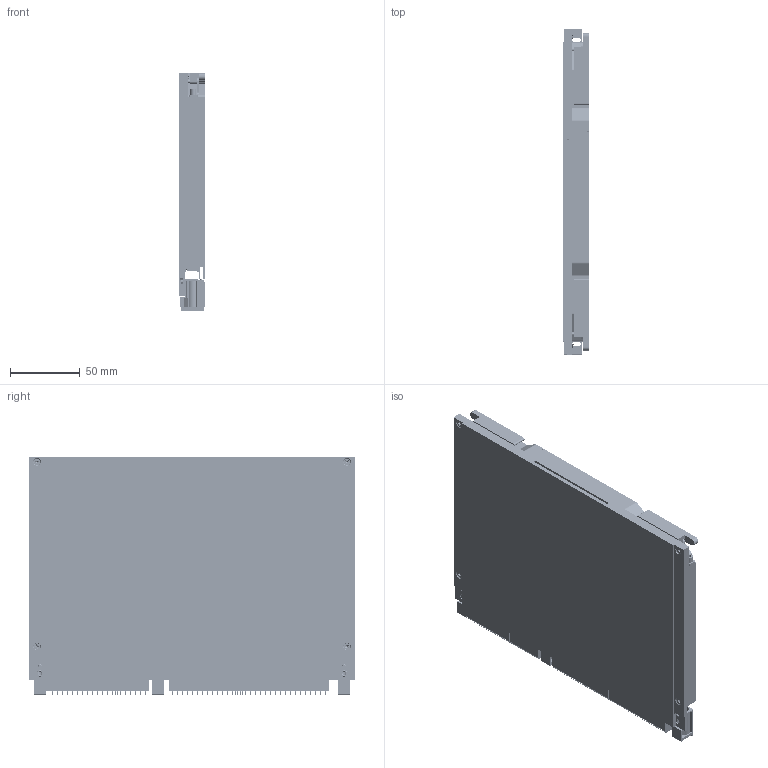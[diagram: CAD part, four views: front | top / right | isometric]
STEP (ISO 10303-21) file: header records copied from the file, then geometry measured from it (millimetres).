
FILE_DESCRIPTION (( 'STEP AP214' ), '1' );
FILE_NAME ('6U-VPX48.2-PS-260-82793.STEP', '2018-06-18T21:09:09', ( '' ), ( '' ), 'SwSTEP 2.0', 'SolidWorks 2014', '' );
FILE_SCHEMA (( 'AUTOMOTIVE_DESIGN' ));
Length unit declared in the file: millimetre
Products named in the file (21): 322307-18_92010A016; 82793-F_82793R-F-NLE; 82793-F_82793L-F-NLE; FRAME_82793_6UVPX48.2-800-260 PSR; PMC-XMC COVER; SECONDARY SIDE COVER; 6U-VPX48.2-PS-260-82793; Single Mezzanine board assembly; c-2102060-1-e-3d; 714362164; PMC-XMC BOARD_PMC XMC VITA 20 VITA 42; VPX BOARD ASSEMBLY_6UXMC VITA 42; 714390164; c-2102061-1-g-3d; 1410189-3; 1774226_1-1469492-9; 1410187-3; VPX BOARD_6U VITA 42 SINGLE XMC PMC; CCA FRAME ASSEMBLY_82793_6UVPX48.2-800-260 FRAME ASSEMBLY PSR; 260-4.80; 480-023_SDG
Assembly tree (54 placements, depth 3):
  6U-VPX48.2-PS-260-82793
    CCA FRAME ASSEMBLY_82793_6UVPX48.2-800-260 FRAME ASSEMBLY PSR
      FRAME_82793_6UVPX48.2-800-260 PSR
      82793-F_82793L-F-NLE
      82793-F_82793R-F-NLE
      322307-18_92010A016  x6
      480-023_SDG  x2
      260-4.80  x2
    VPX BOARD ASSEMBLY_6UXMC VITA 42
      VPX BOARD_6U VITA 42 SINGLE XMC PMC
      1410187-3  x6
      1774226_1-1469492-9  x3
      1410189-3
      c-2102061-1-g-3d  x2
      714390164  x4
    Single Mezzanine board assembly
      PMC-XMC BOARD_PMC XMC VITA 20 VITA 42
      714362164  x4
      c-2102060-1-e-3d  x2
    SECONDARY SIDE COVER
    PMC-XMC COVER
    322307-18_92010A016  x12
Bounding box: 19.09 x 233.35 x 170.75 mm (x, y, z)
Volume: 322342.9 mm3; surface area: 370115.1 mm2
Topology: 307 solids, 309 shells, 24947 faces, 66981 edges, 44199 vertices
Faces by surface type: plane 21541, cylinder 2505, bspline 579, cone 322
Full cylindrical faces by diameter (mm): 0.43 x26, 0.5 x228, 1.05 x33, 1.2 x16, 1.6 x10, 1.778 x6, 2.05 x2, 2.2 x15, 2.381 x8, 2.5 x180, 2.55 x18, 2.7 x20, 2.845 x2, 2.9 x10, 2.921 x2, 3 x3, 3.1 x8, 4.648 x2, 4.65 x3, 5.5 x18, 5.9 x3
Entity records: 258129 total; most frequent: CARTESIAN_POINT 66388, ORIENTED_EDGE 39456, DIRECTION 36201, EDGE_CURVE 19728, VECTOR 17343, LINE 17343, VERTEX_POINT 13240, EDGE_LOOP 9492
